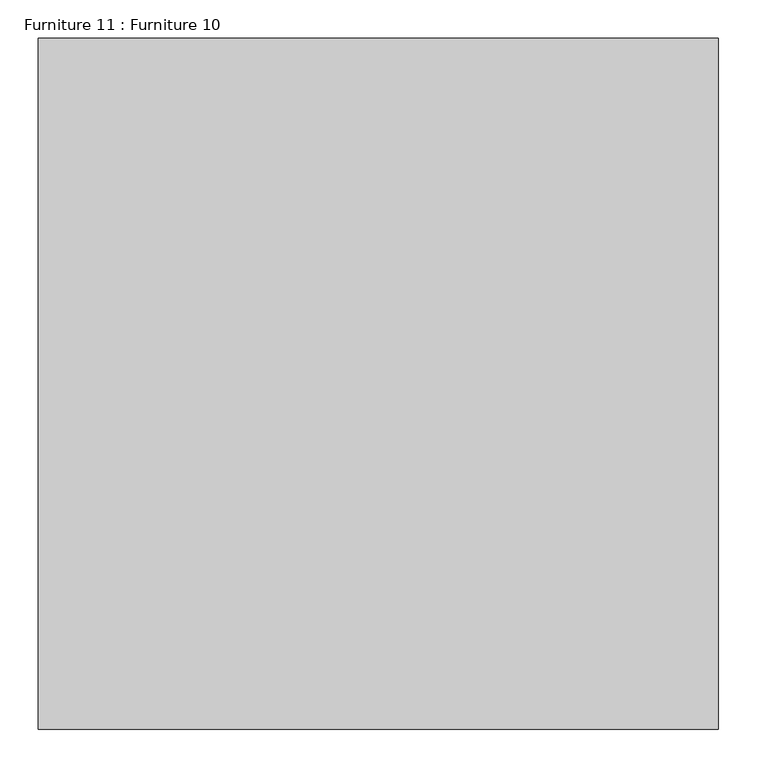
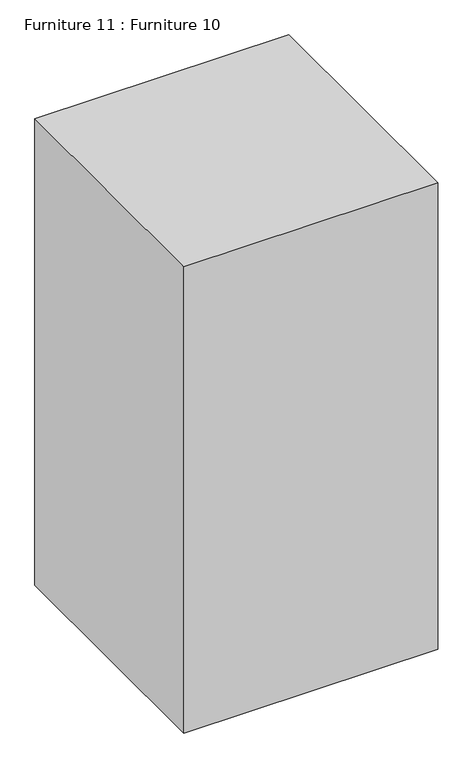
"""IFC4 building model written with IfcOpenShell, lengths in millimetres: furniture geometry, Furniture 11 : Furniture 10."""

from ifc_helpers import new_model, si_unit, frame, origin, place, context, project, spatial, polyline, outline, extrude, source, transform, mapped, element, save


def furniture_11_furniture_10_1a3eb3c1(model_context):
    return source(origin(), model_context, "Body", "SweptSolid", [
        extrude(outline(polyline([(-13812.1558304, 6218.0013961), (-13812.1558304, 5318.0013961), (-14697.7873937, 5318.0013961), (-14697.7873937, 6218.0013961), (-13812.1558304, 6218.0013961)])), frame((0.0, 0.0, 2510.0), z_axis=(0.0, 0.0, 1.0), x_axis=(1.0, 0.0, 0.0)), (0.0, 0.0, 1.0), 1720.0),
    ])


if __name__ == "__main__":
    model = new_model("IFC4")
    model_context = context("Model", 3, world=origin())
    ifc_project = project(units=[si_unit("LENGTHUNIT", "METRE", prefix="MILLI")], contexts=[model_context])
    site = spatial("IfcSite", under=ifc_project)
    building = spatial("IfcBuilding", under=site)
    placement = place(None, origin())
    furniture_11_furniture_10_shape = furniture_11_furniture_10_1a3eb3c1(model_context)
    element("IfcFurniture", 1, ObjectType="Furniture 11 : Furniture 10", at=placement, inside=building, context=model_context, shape_type="MappedRepresentation", body=[
        mapped(furniture_11_furniture_10_shape, transform((0.0, 0.0, 0.0), x_axis=(1.0, 0.0, 0.0), y_axis=(0.0, 1.0, 0.0), z_axis=(0.0, 0.0, 1.0))),
    ])
    save(model, "model.ifc")
